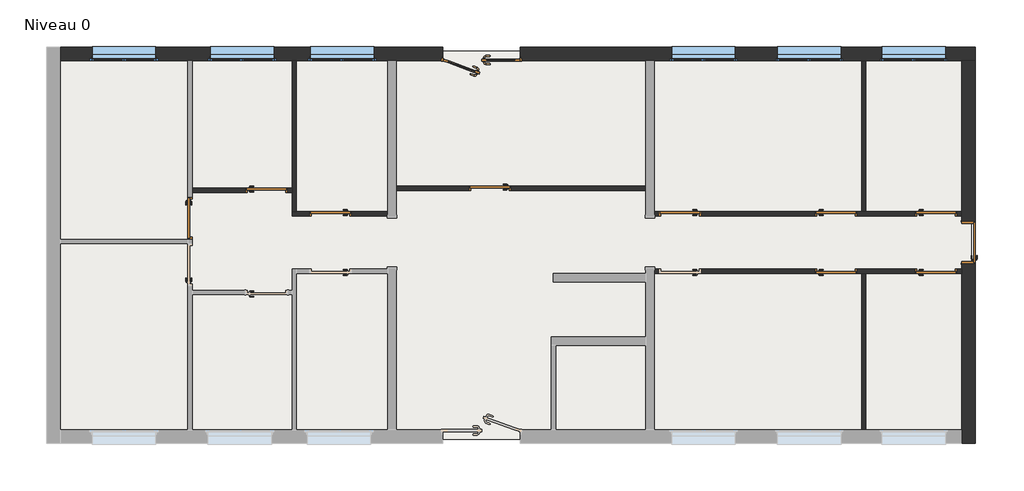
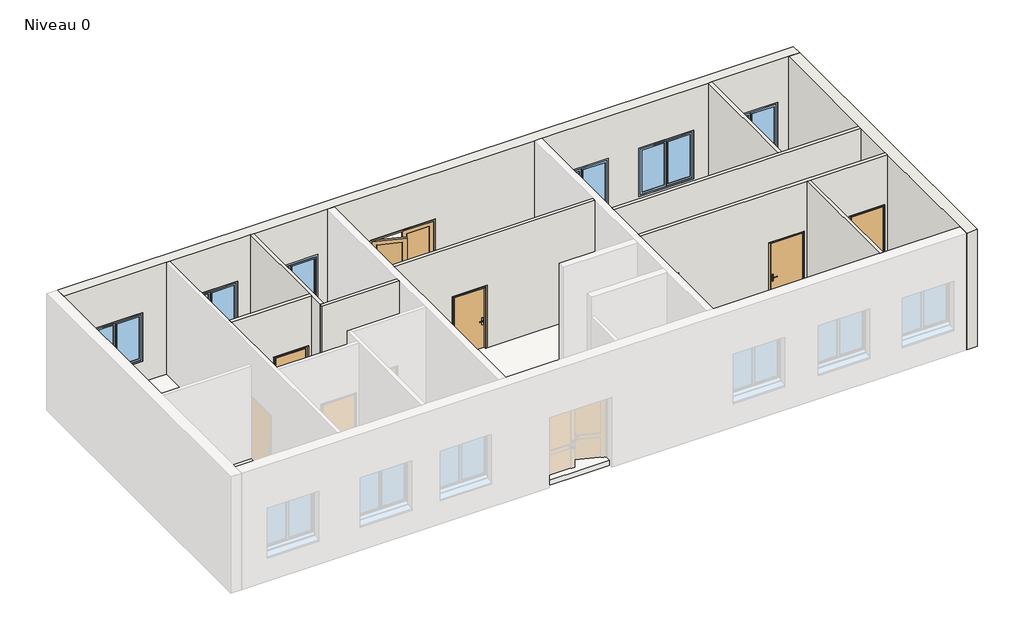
# One storey, part 2 of 2: 11 doors, 10 walls, 6 windows, 1 slab.
"""IFC4 building model written with IfcOpenShell, lengths in millimetres."""

from ifc_helpers import new_model, si_unit, frame, origin, origin_with_axes, place, context, project, spatial, polyline, outline, extrude, faceted_brep, transform, mapped, element, save
from components import ext_double_4d125d60, int_simple_pp_0_93m_x_2_04m_4f2bf630, int_simple_pp_0_93m_x_2_04m_68d1b237, int_simple_pp_0_93m_x_2_04m_d9fe3ddc, window_4dd6e4df, window_9a843f60

model = new_model("IFC4")

# Units and contexts
model_context = context("Model", 3, world=origin())
ifc_project = project(units=[si_unit("LENGTHUNIT", "METRE", prefix="MILLI")], contexts=[model_context])

# Site, building, storey
site = spatial("IfcSite", under=ifc_project)
building = spatial("IfcBuilding", under=site)
storey = spatial("IfcBuildingStorey", under=building, Name="Niveau 0", Elevation=0.0)

# Doors
placement = place(None, origin())
ext_double_shape = ext_double_4d125d60(model_context)
element("IfcDoor", 1, ObjectType="Ext. Double : Vitrée avec traverse - 1.80 m x 2.15 m", at=placement, inside=storey, context=model_context, shape_type="MappedRepresentation", body=[
    mapped(ext_double_shape, transform((-4108.240701, 4034.6939449, 0.0), x_axis=(1.0, 0.0, 0.0), y_axis=(0.0, 1.0, 0.0), z_axis=(0.0, 0.0, 1.0))),
])
int_simple_pp_0_93m_x_2_04m_shape = int_simple_pp_0_93m_x_2_04m_4f2bf630(model_context)
element("IfcDoor", 2, ObjectType="Int. Simple : PP (0.93m x 2.04m)", at=placement, inside=storey, context=model_context, shape_type="MappedRepresentation", body=[
    mapped(int_simple_pp_0_93m_x_2_04m_shape, transform((4246.759299, -1075.3060551, 0.0), x_axis=(1.0, 0.0, 0.0), y_axis=(0.0, 1.0, 0.0), z_axis=(0.0, 0.0, 1.0))),
])
element("IfcDoor", 3, ObjectType="Int. Simple : PP (0.93m x 2.04m)", at=placement, inside=storey, context=model_context, shape_type="MappedRepresentation", body=[
    mapped(int_simple_pp_0_93m_x_2_04m_shape, transform((6596.759299, -1075.3060551, 0.0), x_axis=(1.0, 0.0, 0.0), y_axis=(0.0, 1.0, 0.0), z_axis=(0.0, 0.0, 1.0))),
])
element("IfcDoor", 4, ObjectType="Int. Simple : PP (0.93m x 2.04m)", at=placement, inside=storey, context=model_context, shape_type="MappedRepresentation", body=[
    mapped(int_simple_pp_0_93m_x_2_04m_shape, transform((506.759299, 274.6939449, 0.0), x_axis=(-1.0, 0.0, 0.0), y_axis=(0.0, -1.0, 0.0), z_axis=(0.0, 0.0, 1.0))),
])
element("IfcDoor", 5, ObjectType="Int. Simple : PP (0.93m x 2.04m)", at=placement, inside=storey, context=model_context, shape_type="MappedRepresentation", body=[
    mapped(int_simple_pp_0_93m_x_2_04m_shape, transform((-3953.240701, 874.6939449, 0.0), x_axis=(-1.0, 0.0, 0.0), y_axis=(0.0, -1.0, 0.0), z_axis=(0.0, 0.0, 1.0))),
])
element("IfcDoor", 6, ObjectType="Int. Simple : PP (0.93m x 2.04m)", at=placement, inside=storey, context=model_context, shape_type="MappedRepresentation", body=[
    mapped(int_simple_pp_0_93m_x_2_04m_shape, transform((-7703.240701, 274.6939449, 0.0), x_axis=(-1.0, 0.0, 0.0), y_axis=(0.0, -1.0, 0.0), z_axis=(0.0, 0.0, 1.0))),
])
element("IfcDoor", 7, ObjectType="Int. Simple : PP (0.93m x 2.04m)", at=placement, inside=storey, context=model_context, shape_type="MappedRepresentation", body=[
    mapped(int_simple_pp_0_93m_x_2_04m_shape, transform((-10968.240701, 139.6939449, 0.0), x_axis=(0.0, -1.0, 0.0), y_axis=(1.0, 0.0, 0.0), z_axis=(0.0, 0.0, 1.0))),
])
int_simple_pp_0_93m_x_2_04m_2_shape = int_simple_pp_0_93m_x_2_04m_68d1b237(model_context)
element("IfcDoor", 8, ObjectType="Int. Simple : PP (0.93m x 2.04m)", at=placement, inside=storey, context=model_context, shape_type="MappedRepresentation", body=[
    mapped(int_simple_pp_0_93m_x_2_04m_2_shape, transform((6596.759299, 274.6939449, 0.0), x_axis=(1.0, 0.0, 0.0), y_axis=(0.0, 1.0, 0.0), z_axis=(0.0, 0.0, 1.0))),
])
element("IfcDoor", 9, ObjectType="Int. Simple : PP (0.93m x 2.04m)", at=placement, inside=storey, context=model_context, shape_type="MappedRepresentation", body=[
    mapped(int_simple_pp_0_93m_x_2_04m_2_shape, transform((4246.759299, 274.6939449, 0.0), x_axis=(1.0, 0.0, 0.0), y_axis=(0.0, 1.0, 0.0), z_axis=(0.0, 0.0, 1.0))),
])
element("IfcDoor", 10, ObjectType="Int. Simple : PP (0.93m x 2.04m)", at=placement, inside=storey, context=model_context, shape_type="MappedRepresentation", body=[
    mapped(int_simple_pp_0_93m_x_2_04m_2_shape, transform((-9133.240701, 824.6939449, 0.0), x_axis=(1.0, 0.0, 0.0), y_axis=(0.0, 1.0, 0.0), z_axis=(0.0, 0.0, 1.0))),
])
int_simple_pp_0_93m_x_2_04m_3_shape = int_simple_pp_0_93m_x_2_04m_d9fe3ddc(model_context)
element("IfcDoor", 11, ObjectType="Int. Simple : PP (0.93m x 2.04m)", at=placement, inside=storey, context=model_context, shape_type="MappedRepresentation", body=[
    mapped(int_simple_pp_0_93m_x_2_04m_3_shape, transform((7321.759299, -365.3060551, 0.0), x_axis=(0.0, 1.0, 0.0), y_axis=(-1.0, 0.0, 0.0), z_axis=(0.0, 0.0, 1.0))),
])

# Slab
element("IfcSlab", 12, ObjectType="Dalle en béton - 150 mm", at=placement, inside=storey, context=model_context, shape_type="SweptSolid", body=[
    extrude(outline(polyline([(-14238.240701, -5025.3060551), (-14238.240701, 4094.6939449), (7381.759299, 4094.6939449), (7381.759299, -5025.3060551), (-14238.240701, -5025.3060551)])), origin_with_axes(), (0.0, 0.0, 1.0), 150.0),
])

# Walls
element("IfcWall", 13, ObjectType="Int. plâtre 100 mm", at=placement, inside=storey, context=model_context, shape_type="Brep", body=[
    faceted_brep([(7161.759299, 224.6939449, 3600.0), (-58.240701, 224.6939449, 3600.0), (-58.240701, 224.6939449, 0.0), (41.759299, 224.6939449, 0.0), (41.759299, 224.6939449, 2075.0), (1041.759299, 224.6939449, 2075.0), (1041.759299, 224.6939449, 0.0), (3711.759299, 224.6939449, 0.0), (3711.759299, 224.6939449, 2075.0), (4711.759299, 224.6939449, 2075.0), (4711.759299, 224.6939449, 0.0), (6061.759299, 224.6939449, 0.0), (6061.759299, 224.6939449, 2075.0), (7061.759299, 224.6939449, 2075.0), (7061.759299, 224.6939449, 0.0), (7161.759299, 224.6939449, 0.0), (-58.240701, 324.6939449, 3600.0), (4811.759299, 324.6939449, 3600.0), (4911.759299, 324.6939449, 3600.0), (7161.759299, 324.6939449, 3600.0), (7161.759299, 324.6939449, 0.0), (7061.759299, 324.6939449, 0.0), (7061.759299, 324.6939449, 2075.0), (6061.759299, 324.6939449, 2075.0), (6061.759299, 324.6939449, 0.0), (4911.759299, 324.6939449, 0.0), (4811.759299, 324.6939449, 0.0), (4711.759299, 324.6939449, 0.0), (4711.759299, 324.6939449, 2075.0), (3711.759299, 324.6939449, 2075.0), (3711.759299, 324.6939449, 0.0), (1041.759299, 324.6939449, 0.0), (1041.759299, 324.6939449, 2075.0), (41.759299, 324.6939449, 2075.0), (41.759299, 324.6939449, 0.0), (-58.240701, 324.6939449, 0.0)], [[[0, 1, 2, 3, 4, 5, 6, 7, 8, 9, 10, 11, 12, 13, 14, 15]], [[16, 17, 18, 19, 20, 21, 22, 23, 24, 25, 26, 27, 28, 29, 30, 31, 32, 33, 34, 35]], [[2, 35, 34, 3]], [[20, 15, 14, 21]], [[24, 11, 10, 27, 26, 25]], [[30, 7, 6, 31]], [[1, 0, 19, 18, 17, 16]], [[0, 15, 20, 19]], [[2, 1, 16, 35]], [[13, 22, 21, 14]], [[22, 13, 12, 23]], [[23, 12, 11, 24]], [[10, 9, 28, 27]], [[9, 8, 29, 28]], [[8, 7, 30, 29]], [[33, 4, 3, 34]], [[4, 33, 32, 5]], [[5, 32, 31, 6]]]),
])
element("IfcWall", 14, ObjectType="Int. plâtre 100 mm", at=placement, inside=storey, context=model_context, shape_type="Brep", body=[
    faceted_brep([(7161.759299, -1125.3060551, 3600.0), (4911.759299, -1125.3060551, 3600.0), (4811.759299, -1125.3060551, 3600.0), (-58.240701, -1125.3060551, 3600.0), (-58.240701, -1125.3060551, 0.0), (41.759299, -1125.3060551, 0.0), (41.759299, -1125.3060551, 2075.0), (1041.759299, -1125.3060551, 2075.0), (1041.759299, -1125.3060551, 0.0), (3711.759299, -1125.3060551, 0.0), (3711.759299, -1125.3060551, 2075.0), (4711.759299, -1125.3060551, 2075.0), (4711.759299, -1125.3060551, 0.0), (4811.759299, -1125.3060551, 0.0), (4911.759299, -1125.3060551, 0.0), (6061.759299, -1125.3060551, 0.0), (6061.759299, -1125.3060551, 2075.0), (7061.759299, -1125.3060551, 2075.0), (7061.759299, -1125.3060551, 0.0), (7161.759299, -1125.3060551, 0.0), (-58.240701, -1025.3060551, 3600.0), (7161.759299, -1025.3060551, 3600.0), (7161.759299, -1025.3060551, 0.0), (7061.759299, -1025.3060551, 0.0), (7061.759299, -1025.3060551, 2075.0), (6061.759299, -1025.3060551, 2075.0), (6061.759299, -1025.3060551, 0.0), (4711.759299, -1025.3060551, 0.0), (4711.759299, -1025.3060551, 2075.0), (3711.759299, -1025.3060551, 2075.0), (3711.759299, -1025.3060551, 0.0), (1041.759299, -1025.3060551, 0.0), (1041.759299, -1025.3060551, 2075.0), (41.759299, -1025.3060551, 2075.0), (41.759299, -1025.3060551, 0.0), (-58.240701, -1025.3060551, 0.0)], [[[0, 1, 2, 3, 4, 5, 6, 7, 8, 9, 10, 11, 12, 13, 14, 15, 16, 17, 18, 19]], [[20, 21, 22, 23, 24, 25, 26, 27, 28, 29, 30, 31, 32, 33, 34, 35]], [[4, 35, 34, 5]], [[22, 19, 18, 23]], [[8, 31, 30, 9]], [[12, 27, 26, 15, 14, 13]], [[3, 2, 1, 0, 21, 20]], [[0, 19, 22, 21]], [[4, 3, 20, 35]], [[6, 5, 34, 33]], [[7, 6, 33, 32]], [[8, 7, 32, 31]], [[11, 28, 27, 12]], [[28, 11, 10, 29]], [[29, 10, 9, 30]], [[17, 24, 23, 18]], [[24, 17, 16, 25]], [[25, 16, 15, 26]]]),
])
element("IfcWall", 15, ObjectType="Int. plâtre 100 mm", at=placement, inside=storey, context=model_context, shape_type="SweptSolid", body=[
    extrude(outline(polyline([(4911.759299, -1125.3060551), (4911.759299, -4805.3060551), (4811.759299, -4805.3060551), (4811.759299, -1125.3060551), (4911.759299, -1125.3060551)])), origin_with_axes(), (0.0, 0.0, 1.0), 3600.0),
])
element("IfcWall", 16, ObjectType="Int. plâtre 100 mm", at=placement, inside=storey, context=model_context, shape_type="SweptSolid", body=[
    extrude(outline(polyline([(4811.759299, 324.6939449), (4811.759299, 3874.6939449), (4911.759299, 3874.6939449), (4911.759299, 324.6939449), (4811.759299, 324.6939449)])), origin_with_axes(), (0.0, 0.0, 1.0), 3600.0),
])
element("IfcWall", 17, ObjectType="Int. plâtre 100 mm", at=placement, inside=storey, context=model_context, shape_type="Brep", body=[
    faceted_brep([(-8568.240701, 324.6939449, 3600.0), (-8468.240701, 324.6939449, 3600.0), (-6318.240701, 324.6939449, 3600.0), (-6318.240701, 324.6939449, 0.0), (-7168.240701, 324.6939449, 0.0), (-7168.240701, 324.6939449, 2075.0), (-8168.240701, 324.6939449, 2075.0), (-8168.240701, 324.6939449, 0.0), (-8468.240701, 324.6939449, 0.0), (-8568.240701, 324.6939449, 0.0), (-6318.240701, 224.6939449, 3600.0), (-8568.240701, 224.6939449, 3600.0), (-8568.240701, 224.6939449, 0.0), (-8168.240701, 224.6939449, 0.0), (-8168.240701, 224.6939449, 2075.0), (-7168.240701, 224.6939449, 2075.0), (-7168.240701, 224.6939449, 0.0), (-6318.240701, 224.6939449, 0.0)], [[[0, 1, 2, 3, 4, 5, 6, 7, 8, 9]], [[10, 11, 12, 13, 14, 15, 16, 17]], [[3, 17, 16, 4]], [[12, 9, 8, 7, 13]], [[2, 1, 0, 11, 10]], [[3, 2, 10, 17]], [[0, 9, 12, 11]], [[6, 14, 13, 7]], [[14, 6, 5, 15]], [[15, 5, 4, 16]]]),
])
element("IfcWall", 18, ObjectType="Int. plâtre 100 mm", at=placement, inside=storey, context=model_context, shape_type="Brep", body=[
    faceted_brep([(-8468.240701, 324.6939449, 0.0), (-8468.240701, 3874.6939449, 0.0), (-8468.240701, 3874.6939449, 3600.0), (-8468.240701, 324.6939449, 3600.0), (-8568.240701, 324.6939449, 0.0), (-8568.240701, 324.6939449, 3600.0), (-8568.240701, 774.6939449, 3600.0), (-8568.240701, 874.6939449, 3600.0), (-8568.240701, 3874.6939449, 3600.0), (-8568.240701, 3874.6939449, 0.0), (-8568.240701, 874.6939449, 0.0), (-8568.240701, 774.6939449, 0.0)], [[[0, 1, 2, 3]], [[4, 5, 6, 7, 8, 9, 10, 11]], [[1, 0, 4, 11, 10, 9]], [[3, 2, 8, 7, 6, 5]], [[0, 3, 5, 4]], [[2, 1, 9, 8]]]),
])
element("IfcWall", 19, ObjectType="Int. plâtre 100 mm", at=placement, inside=storey, context=model_context, shape_type="SweptSolid", body=[
    extrude(outline(polyline([(3600.0, -8568.240701), (3600.0, -10918.240701), (0.0, -10918.240701), (0.0, -9668.240701), (2075.0, -9668.240701), (2075.0, -8668.240701), (0.0, -8668.240701), (0.0, -8568.240701), (3600.0, -8568.240701)])), frame((0.0, 774.6939449, 0.0), z_axis=(0.0, 1.0, 0.0), x_axis=(0.0, 0.0, 1.0)), (0.0, 0.0, 1.0), 100.0),
])
element("IfcWall", 20, ObjectType="Int. plâtre 100 mm", at=placement, inside=storey, context=model_context, shape_type="SweptSolid", body=[
    extrude(outline(polyline([(3600.0, -258.240701), (3600.0, -6118.240701), (0.0, -6118.240701), (0.0, -4418.240701), (2075.0, -4418.240701), (2075.0, -3418.240701), (0.0, -3418.240701), (0.0, -258.240701), (3600.0, -258.240701)])), frame((0.0, 824.6939449, 0.0), z_axis=(0.0, 1.0, 0.0), x_axis=(0.0, 0.0, 1.0)), (0.0, 0.0, 1.0), 100.0),
])
element("IfcWall", 21, ObjectType="Ext. Voile BA 20 + Isolant 10", at=placement, inside=storey, context=model_context, shape_type="Brep", body=[
    faceted_brep([(7481.759299, 3874.6939449, 3600.0), (7161.759299, 3874.6939449, 3600.0), (4911.759299, 3874.6939449, 3600.0), (4811.759299, 3874.6939449, 3600.0), (-58.240701, 3874.6939449, 3600.0), (-258.240701, 3874.6939449, 3600.0), (-6118.240701, 3874.6939449, 3600.0), (-6318.240701, 3874.6939449, 3600.0), (-8468.240701, 3874.6939449, 3600.0), (-8568.240701, 3874.6939449, 3600.0), (-10918.240701, 3874.6939449, 3600.0), (-11018.240701, 3874.6939449, 3600.0), (-14018.240701, 3874.6939449, 3600.0), (-14018.240701, 3874.6939449, 0.0), (-11018.240701, 3874.6939449, 0.0), (-10918.240701, 3874.6939449, 0.0), (-8568.240701, 3874.6939449, 0.0), (-8468.240701, 3874.6939449, 0.0), (-6318.240701, 3874.6939449, 0.0), (-6118.240701, 3874.6939449, 0.0), (-5068.240701, 3874.6939449, 0.0), (-5068.240701, 3874.6939449, 2200.0), (-3168.240701, 3874.6939449, 2200.0), (-3168.240701, 3874.6939449, 0.0), (-258.240701, 3874.6939449, 0.0), (-58.240701, 3874.6939449, 0.0), (4811.759299, 3874.6939449, 0.0), (4911.759299, 3874.6939449, 0.0), (7161.759299, 3874.6939449, 0.0), (7481.759299, 3874.6939449, 0.0), (1896.759299, 3874.6939449, 800.0), (296.759299, 3874.6939449, 800.0), (296.759299, 3874.6939449, 2300.0), (1896.759299, 3874.6939449, 2300.0), (4381.759299, 3874.6939449, 800.0), (2781.759299, 3874.6939449, 800.0), (2781.759299, 3874.6939449, 2300.0), (4381.759299, 3874.6939449, 2300.0), (6836.759299, 3874.6939449, 800.0), (5236.759299, 3874.6939449, 800.0), (5236.759299, 3874.6939449, 2300.0), (6836.759299, 3874.6939449, 2300.0), (-11718.240701, 3874.6939449, 800.0), (-13318.240701, 3874.6939449, 800.0), (-13318.240701, 3874.6939449, 2300.0), (-11718.240701, 3874.6939449, 2300.0), (-8943.240701, 3874.6939449, 800.0), (-10543.240701, 3874.6939449, 800.0), (-10543.240701, 3874.6939449, 2300.0), (-8943.240701, 3874.6939449, 2300.0), (-6593.240701, 3874.6939449, 800.0), (-8193.240701, 3874.6939449, 800.0), (-8193.240701, 3874.6939449, 2300.0), (-6593.240701, 3874.6939449, 2300.0), (-14018.240701, 4194.6939449, 3600.0), (7481.759299, 4194.6939449, 3600.0), (7481.759299, 4194.6939449, 0.0), (-3208.240701, 4194.6939449, 0.0), (-3208.240701, 4194.6939449, 2160.0), (-5028.240701, 4194.6939449, 2160.0), (-5028.240701, 4194.6939449, 0.0), (-14018.240701, 4194.6939449, 0.0), (346.759299, 4194.6939449, 2250.0), (346.759299, 4194.6939449, 720.0), (1846.759299, 4194.6939449, 720.0), (1846.759299, 4194.6939449, 2250.0), (2831.759299, 4194.6939449, 2250.0), (2831.759299, 4194.6939449, 720.0), (4331.759299, 4194.6939449, 720.0), (4331.759299, 4194.6939449, 2250.0), (5286.759299, 4194.6939449, 2250.0), (5286.759299, 4194.6939449, 720.0), (6786.759299, 4194.6939449, 720.0), (6786.759299, 4194.6939449, 2250.0), (-11768.240701, 4194.6939449, 720.0), (-11768.240701, 4194.6939449, 2250.0), (-13268.240701, 4194.6939449, 2250.0), (-13268.240701, 4194.6939449, 720.0), (-10493.240701, 4194.6939449, 2250.0), (-10493.240701, 4194.6939449, 720.0), (-8993.240701, 4194.6939449, 720.0), (-8993.240701, 4194.6939449, 2250.0), (-8143.240701, 4194.6939449, 2250.0), (-8143.240701, 4194.6939449, 720.0), (-6643.240701, 4194.6939449, 720.0), (-6643.240701, 4194.6939449, 2250.0), (-5028.240701, 3974.6939449, 0.0), (-5038.240701, 3974.6939449, 0.0), (-5038.240701, 3924.6939449, 0.0), (-5068.240701, 3924.6939449, 0.0), (-3168.240701, 3924.6939449, 0.0), (-3198.240701, 3924.6939449, 0.0), (-3198.240701, 3974.6939449, 0.0), (-3208.240701, 3974.6939449, 0.0), (-3208.240701, 3974.6939449, 2160.0), (-5028.240701, 3974.6939449, 2160.0), (-5038.240701, 3924.6939449, 2170.0), (-3198.240701, 3924.6939449, 2170.0), (-3168.240701, 3924.6939449, 2200.0), (-5068.240701, 3924.6939449, 2200.0), (-5038.240701, 3974.6939449, 2170.0), (-3198.240701, 3974.6939449, 2170.0), (346.759299, 3954.6939449, 800.0), (346.759299, 3954.6939449, 720.0), (346.759299, 3974.6939449, 2250.0), (346.759299, 3974.6939449, 800.0), (1846.759299, 3954.6939449, 720.0), (1846.759299, 3954.6939449, 800.0), (1846.759299, 3974.6939449, 800.0), (1846.759299, 3974.6939449, 2250.0), (336.759299, 3974.6939449, 800.0), (336.759299, 3924.6939449, 800.0), (296.759299, 3924.6939449, 800.0), (1896.759299, 3924.6939449, 800.0), (1856.759299, 3924.6939449, 800.0), (1856.759299, 3974.6939449, 800.0), (296.759299, 3924.6939449, 2300.0), (336.759299, 3924.6939449, 2260.0), (1856.759299, 3924.6939449, 2260.0), (1896.759299, 3924.6939449, 2300.0), (336.759299, 3974.6939449, 2260.0), (1856.759299, 3974.6939449, 2260.0), (2831.759299, 3954.6939449, 800.0), (2831.759299, 3954.6939449, 720.0), (2831.759299, 3974.6939449, 2250.0), (2831.759299, 3974.6939449, 800.0), (4331.759299, 3954.6939449, 720.0), (4331.759299, 3954.6939449, 800.0), (4331.759299, 3974.6939449, 800.0), (4331.759299, 3974.6939449, 2250.0), (2821.759299, 3974.6939449, 800.0), (2821.759299, 3924.6939449, 800.0), (2781.759299, 3924.6939449, 800.0), (4381.759299, 3924.6939449, 800.0), (4341.759299, 3924.6939449, 800.0), (4341.759299, 3974.6939449, 800.0), (2781.759299, 3924.6939449, 2300.0), (2821.759299, 3924.6939449, 2260.0), (4341.759299, 3924.6939449, 2260.0), (4381.759299, 3924.6939449, 2300.0), (2821.759299, 3974.6939449, 2260.0), (4341.759299, 3974.6939449, 2260.0), (5286.759299, 3954.6939449, 800.0), (5286.759299, 3954.6939449, 720.0), (5286.759299, 3974.6939449, 2250.0), (5286.759299, 3974.6939449, 800.0), (6786.759299, 3954.6939449, 720.0), (6786.759299, 3954.6939449, 800.0), (6786.759299, 3974.6939449, 800.0), (6786.759299, 3974.6939449, 2250.0), (5276.759299, 3974.6939449, 800.0), (5276.759299, 3924.6939449, 800.0), (5236.759299, 3924.6939449, 800.0), (6836.759299, 3924.6939449, 800.0), (6796.759299, 3924.6939449, 800.0), (6796.759299, 3974.6939449, 800.0), (5236.759299, 3924.6939449, 2300.0), (5276.759299, 3924.6939449, 2260.0), (6796.759299, 3924.6939449, 2260.0), (6836.759299, 3924.6939449, 2300.0), (5276.759299, 3974.6939449, 2260.0), (6796.759299, 3974.6939449, 2260.0), (-11768.240701, 3954.6939449, 800.0), (-11768.240701, 3974.6939449, 800.0), (-11768.240701, 3974.6939449, 2250.0), (-11768.240701, 3954.6939449, 720.0), (-13268.240701, 3954.6939449, 720.0), (-13268.240701, 3974.6939449, 2250.0), (-13268.240701, 3974.6939449, 800.0), (-13268.240701, 3954.6939449, 800.0), (-13278.240701, 3974.6939449, 800.0), (-13278.240701, 3924.6939449, 800.0), (-13318.240701, 3924.6939449, 800.0), (-11718.240701, 3924.6939449, 800.0), (-11758.240701, 3924.6939449, 800.0), (-11758.240701, 3974.6939449, 800.0), (-11718.240701, 3924.6939449, 2300.0), (-13318.240701, 3924.6939449, 2300.0), (-13278.240701, 3924.6939449, 2260.0), (-11758.240701, 3924.6939449, 2260.0), (-11758.240701, 3974.6939449, 2260.0), (-13278.240701, 3974.6939449, 2260.0), (-10493.240701, 3954.6939449, 800.0), (-10493.240701, 3954.6939449, 720.0), (-10493.240701, 3974.6939449, 2250.0), (-10493.240701, 3974.6939449, 800.0), (-8993.240701, 3954.6939449, 720.0), (-8993.240701, 3954.6939449, 800.0), (-8993.240701, 3974.6939449, 800.0), (-8993.240701, 3974.6939449, 2250.0), (-10503.240701, 3974.6939449, 800.0), (-10503.240701, 3924.6939449, 800.0), (-10543.240701, 3924.6939449, 800.0), (-8943.240701, 3924.6939449, 800.0), (-8983.240701, 3924.6939449, 800.0), (-8983.240701, 3974.6939449, 800.0), (-10543.240701, 3924.6939449, 2300.0), (-10503.240701, 3924.6939449, 2260.0), (-8983.240701, 3924.6939449, 2260.0), (-8943.240701, 3924.6939449, 2300.0), (-10503.240701, 3974.6939449, 2260.0), (-8983.240701, 3974.6939449, 2260.0), (-8143.240701, 3954.6939449, 800.0), (-8143.240701, 3954.6939449, 720.0), (-8143.240701, 3974.6939449, 2250.0), (-8143.240701, 3974.6939449, 800.0), (-6643.240701, 3954.6939449, 720.0), (-6643.240701, 3954.6939449, 800.0), (-6643.240701, 3974.6939449, 800.0), (-6643.240701, 3974.6939449, 2250.0), (-8153.240701, 3974.6939449, 800.0), (-8153.240701, 3924.6939449, 800.0), (-8193.240701, 3924.6939449, 800.0), (-6593.240701, 3924.6939449, 800.0), (-6633.240701, 3924.6939449, 800.0), (-6633.240701, 3974.6939449, 800.0), (-8193.240701, 3924.6939449, 2300.0), (-8153.240701, 3924.6939449, 2260.0), (-6633.240701, 3924.6939449, 2260.0), (-6593.240701, 3924.6939449, 2300.0), (-8153.240701, 3974.6939449, 2260.0), (-6633.240701, 3974.6939449, 2260.0)], [[[0, 1, 2, 3, 4, 5, 6, 7, 8, 9, 10, 11, 12, 13, 14, 15, 16, 17, 18, 19, 20, 21, 22, 23, 24, 25, 26, 27, 28, 29], [30, 31, 32, 33], [34, 35, 36, 37], [38, 39, 40, 41], [42, 43, 44, 45], [46, 47, 48, 49], [50, 51, 52, 53]], [[54, 55, 56, 57, 58, 59, 60, 61], [62, 63, 64, 65], [66, 67, 68, 69], [70, 71, 72, 73], [74, 75, 76, 77], [78, 79, 80, 81], [82, 83, 84, 85]], [[13, 61, 60, 86, 87, 88, 89, 20, 19, 18, 17, 16, 15, 14]], [[56, 29, 28, 27, 26, 25, 24, 23, 90, 91, 92, 93, 57]], [[12, 11, 10, 9, 8, 7, 6, 5, 4, 3, 2, 1, 0, 55, 54]], [[13, 12, 54, 61]], [[0, 29, 56, 55]], [[94, 95, 59, 58]], [[93, 94, 58, 57]], [[95, 86, 60, 59]], [[88, 96, 97, 91, 90, 98, 99, 89]], [[96, 88, 87, 100]], [[95, 94, 93, 92, 101, 100, 87, 86]], [[89, 99, 21, 20]], [[97, 96, 100, 101]], [[99, 98, 22, 21]], [[91, 97, 101, 92]], [[98, 90, 23, 22]], [[102, 103, 63, 62, 104, 105]], [[106, 107, 108, 109, 65, 64]], [[103, 106, 64, 63]], [[103, 102, 107, 106]], [[62, 65, 109, 104]], [[107, 102, 105, 110, 111, 112, 31, 30, 113, 114, 115, 108]], [[31, 112, 116, 32]], [[112, 111, 117, 118, 114, 113, 119, 116]], [[111, 110, 120, 117]], [[110, 105, 104, 109, 108, 115, 121, 120]], [[32, 116, 119, 33]], [[118, 117, 120, 121]], [[119, 113, 30, 33]], [[114, 118, 121, 115]], [[122, 123, 67, 66, 124, 125]], [[126, 127, 128, 129, 69, 68]], [[123, 126, 68, 67]], [[123, 122, 127, 126]], [[66, 69, 129, 124]], [[127, 122, 125, 130, 131, 132, 35, 34, 133, 134, 135, 128]], [[35, 132, 136, 36]], [[132, 131, 137, 138, 134, 133, 139, 136]], [[131, 130, 140, 137]], [[130, 125, 124, 129, 128, 135, 141, 140]], [[36, 136, 139, 37]], [[138, 137, 140, 141]], [[139, 133, 34, 37]], [[134, 138, 141, 135]], [[142, 143, 71, 70, 144, 145]], [[146, 147, 148, 149, 73, 72]], [[143, 146, 72, 71]], [[143, 142, 147, 146]], [[70, 73, 149, 144]], [[147, 142, 145, 150, 151, 152, 39, 38, 153, 154, 155, 148]], [[39, 152, 156, 40]], [[152, 151, 157, 158, 154, 153, 159, 156]], [[151, 150, 160, 157]], [[150, 145, 144, 149, 148, 155, 161, 160]], [[40, 156, 159, 41]], [[158, 157, 160, 161]], [[159, 153, 38, 41]], [[154, 158, 161, 155]], [[162, 163, 164, 75, 74, 165]], [[166, 77, 76, 167, 168, 169]], [[165, 74, 77, 166]], [[165, 166, 169, 162]], [[75, 164, 167, 76]], [[169, 168, 170, 171, 172, 43, 42, 173, 174, 175, 163, 162]], [[42, 45, 176, 173]], [[173, 176, 177, 172, 171, 178, 179, 174]], [[174, 179, 180, 175]], [[175, 180, 181, 170, 168, 167, 164, 163]], [[45, 44, 177, 176]], [[178, 181, 180, 179]], [[177, 44, 43, 172]], [[171, 170, 181, 178]], [[182, 183, 79, 78, 184, 185]], [[186, 187, 188, 189, 81, 80]], [[183, 186, 80, 79]], [[183, 182, 187, 186]], [[78, 81, 189, 184]], [[187, 182, 185, 190, 191, 192, 47, 46, 193, 194, 195, 188]], [[47, 192, 196, 48]], [[192, 191, 197, 198, 194, 193, 199, 196]], [[191, 190, 200, 197]], [[190, 185, 184, 189, 188, 195, 201, 200]], [[48, 196, 199, 49]], [[198, 197, 200, 201]], [[199, 193, 46, 49]], [[194, 198, 201, 195]], [[202, 203, 83, 82, 204, 205]], [[206, 207, 208, 209, 85, 84]], [[203, 206, 84, 83]], [[203, 202, 207, 206]], [[82, 85, 209, 204]], [[207, 202, 205, 210, 211, 212, 51, 50, 213, 214, 215, 208]], [[51, 212, 216, 52]], [[212, 211, 217, 218, 214, 213, 219, 216]], [[211, 210, 220, 217]], [[210, 205, 204, 209, 208, 215, 221, 220]], [[52, 216, 219, 53]], [[218, 217, 220, 221]], [[219, 213, 50, 53]], [[214, 218, 221, 215]]]),
])
element("IfcWall", 22, ObjectType="Ext. Voile BA 20 + Isolant 10", at=placement, inside=storey, context=model_context, shape_type="Brep", body=[
    faceted_brep([(7161.759299, -5125.3060551, 3600.0), (7161.759299, -4805.3060551, 3600.0), (7161.759299, -1125.3060551, 3600.0), (7161.759299, -1025.3060551, 3600.0), (7161.759299, 224.6939449, 3600.0), (7161.759299, 324.6939449, 3600.0), (7161.759299, 3874.6939449, 3600.0), (7161.759299, 3874.6939449, 0.0), (7161.759299, 324.6939449, 0.0), (7161.759299, 224.6939449, 0.0), (7161.759299, 99.6939449, 0.0), (7161.759299, 99.6939449, 2075.0), (7161.759299, -900.3060551, 2075.0), (7161.759299, -900.3060551, 0.0), (7161.759299, -1025.3060551, 0.0), (7161.759299, -1125.3060551, 0.0), (7161.759299, -4805.3060551, 0.0), (7161.759299, -5125.3060551, 0.0), (7481.759299, 3874.6939449, 3600.0), (7481.759299, -5125.3060551, 3600.0), (7481.759299, -5125.3060551, 0.0), (7481.759299, -900.3060551, 0.0), (7481.759299, -900.3060551, 2075.0), (7481.759299, 99.6939449, 2075.0), (7481.759299, 99.6939449, 0.0), (7481.759299, 3874.6939449, 0.0)], [[[0, 1, 2, 3, 4, 5, 6, 7, 8, 9, 10, 11, 12, 13, 14, 15, 16, 17]], [[18, 19, 20, 21, 22, 23, 24, 25]], [[7, 25, 24, 10, 9, 8]], [[20, 17, 16, 15, 14, 13, 21]], [[6, 5, 4, 3, 2, 1, 0, 19, 18]], [[7, 6, 18, 25]], [[0, 17, 20, 19]], [[23, 11, 10, 24]], [[11, 23, 22, 12]], [[12, 22, 21, 13]]]),
])

# Windows
window_shape = window_4dd6e4df(model_context)
element("IfcWindow", 23, ObjectType="2 Vantaux - Droits : 1.50m x 1.45m - Appui Béton", at=placement, inside=storey, context=model_context, shape_type="MappedRepresentation", body=[
    mapped(window_shape, transform((1096.759299, 4034.6939449, 0.0), x_axis=(1.0, 0.0, 0.0), y_axis=(0.0, 1.0, 0.0), z_axis=(0.0, 0.0, 1.0))),
])
element("IfcWindow", 24, ObjectType="2 Vantaux - Droits : 1.50m x 1.45m - Appui Béton", at=placement, inside=storey, context=model_context, shape_type="MappedRepresentation", body=[
    mapped(window_shape, transform((3581.759299, 4034.6939449, 0.0), x_axis=(1.0, 0.0, 0.0), y_axis=(0.0, 1.0, 0.0), z_axis=(0.0, 0.0, 1.0))),
])
element("IfcWindow", 25, ObjectType="2 Vantaux - Droits : 1.50m x 1.45m - Appui Béton", at=placement, inside=storey, context=model_context, shape_type="MappedRepresentation", body=[
    mapped(window_shape, transform((6036.759299, 4034.6939449, 0.0), x_axis=(1.0, 0.0, 0.0), y_axis=(0.0, 1.0, 0.0), z_axis=(0.0, 0.0, 1.0))),
])
element("IfcWindow", 26, ObjectType="2 Vantaux - Droits : 1.50m x 1.45m - Appui Béton", at=placement, inside=storey, context=model_context, shape_type="MappedRepresentation", body=[
    mapped(window_shape, transform((-9743.240701, 4034.6939449, 0.0), x_axis=(1.0, 0.0, 0.0), y_axis=(0.0, 1.0, 0.0), z_axis=(0.0, 0.0, 1.0))),
])
element("IfcWindow", 27, ObjectType="2 Vantaux - Droits : 1.50m x 1.45m - Appui Béton", at=placement, inside=storey, context=model_context, shape_type="MappedRepresentation", body=[
    mapped(window_shape, transform((-7393.240701, 4034.6939449, 0.0), x_axis=(1.0, 0.0, 0.0), y_axis=(0.0, 1.0, 0.0), z_axis=(0.0, 0.0, 1.0))),
])
window_2_shape = window_9a843f60(model_context)
element("IfcWindow", 28, ObjectType="2 Vantaux - Droits : 1.50m x 1.45m - Appui Béton", at=placement, inside=storey, context=model_context, shape_type="MappedRepresentation", body=[
    mapped(window_2_shape, transform((-12518.240701, 4034.6939449, 0.0), x_axis=(-1.0, 0.0, 0.0), y_axis=(0.0, -1.0, 0.0), z_axis=(0.0, 0.0, 1.0))),
])

save(model, "model.ifc")
